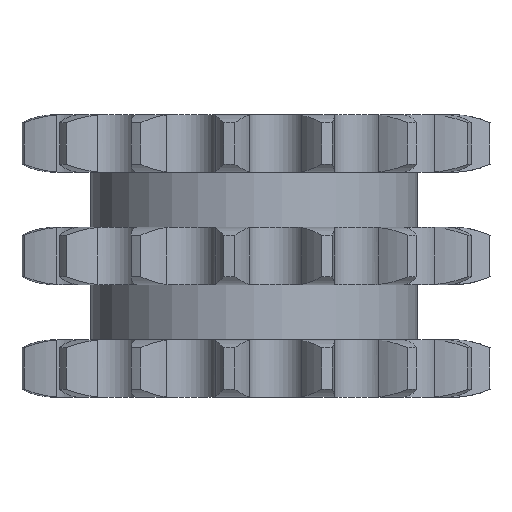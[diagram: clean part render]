
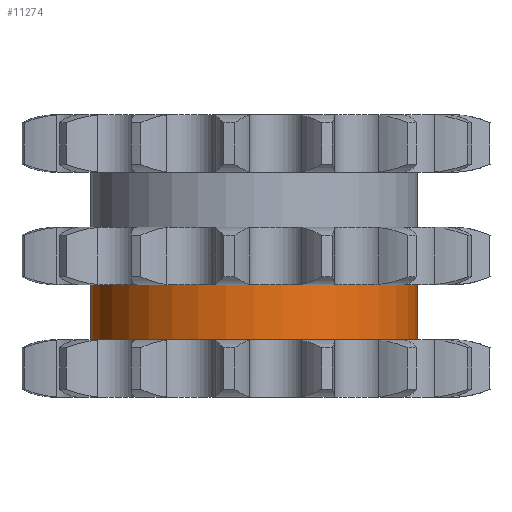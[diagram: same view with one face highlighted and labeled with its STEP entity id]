
A CAD part, left-side view. The second image highlights one B-rep face of the part: STEP entity #11274.
In plain terms, the highlighted cylindrical face has radius 46.084 mm (diameter 92.167 mm), a partial arc.
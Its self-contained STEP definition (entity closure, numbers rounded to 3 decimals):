
#2523=DIRECTION('',(0.,0.,-1.));
#2524=VECTOR('',#2523,15.5);
#2525=CARTESIAN_POINT('',(0.,46.084,-8.1));
#2526=LINE('',#2525,#2524);
#2530=CARTESIAN_POINT('',(0.,0.,-8.1));
#2531=DIRECTION('',(0.,0.,1.));
#2532=DIRECTION('',(0.,1.,0.));
#2533=AXIS2_PLACEMENT_3D('',#2530,#2531,#2532);
#2538=DIRECTION('',(0.,0.,-1.));
#2539=VECTOR('',#2538,15.5);
#2540=CARTESIAN_POINT('',(0.,-46.084,-8.1));
#2541=LINE('',#2540,#2539);
#2545=CARTESIAN_POINT('',(0.,0.,-23.6));
#2546=DIRECTION('',(0.,0.,1.));
#2547=DIRECTION('',(0.,1.,0.));
#2548=AXIS2_PLACEMENT_3D('',#2545,#2546,#2547);
#8424=CARTESIAN_POINT('',(0.,46.084,-8.1));
#8425=CARTESIAN_POINT('',(0.,46.084,-23.6));
#8426=VERTEX_POINT('',#8424);
#8427=VERTEX_POINT('',#8425);
#8428=CARTESIAN_POINT('',(0.,-46.084,-8.1));
#8429=CARTESIAN_POINT('',(0.,-46.084,-23.6));
#8430=VERTEX_POINT('',#8428);
#8431=VERTEX_POINT('',#8429);
#11262=CARTESIAN_POINT('',(0.,0.,25.96));
#11263=DIRECTION('',(0.,0.,-1.));
#11264=DIRECTION('',(0.,-1.,0.));
#11265=AXIS2_PLACEMENT_3D('',#11262,#11263,#11264);
#11266=CYLINDRICAL_SURFACE('',#11265,46.084);
#11267=ORIENTED_EDGE('',*,*,#11252,.F.);
#11268=ORIENTED_EDGE('',*,*,#11242,.T.);
#11269=ORIENTED_EDGE('',*,*,#11256,.T.);
#11271=ORIENTED_EDGE('',*,*,#11270,.F.);
#11272=EDGE_LOOP('',(#11267,#11268,#11269,#11271));
#11273=FACE_OUTER_BOUND('',#11272,.F.);
#11274=ADVANCED_FACE('',(#11273),#11266,.T.);
#2534=CIRCLE('',#2533,46.084);
#2549=CIRCLE('',#2548,46.084);
#11242=EDGE_CURVE('',#8426,#8430,#2534,.T.);
#11252=EDGE_CURVE('',#8426,#8427,#2526,.T.);
#11256=EDGE_CURVE('',#8430,#8431,#2541,.T.);
#11270=EDGE_CURVE('',#8427,#8431,#2549,.T.);
